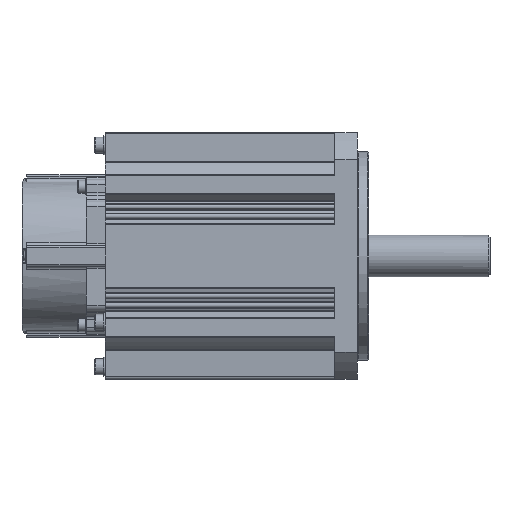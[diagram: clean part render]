
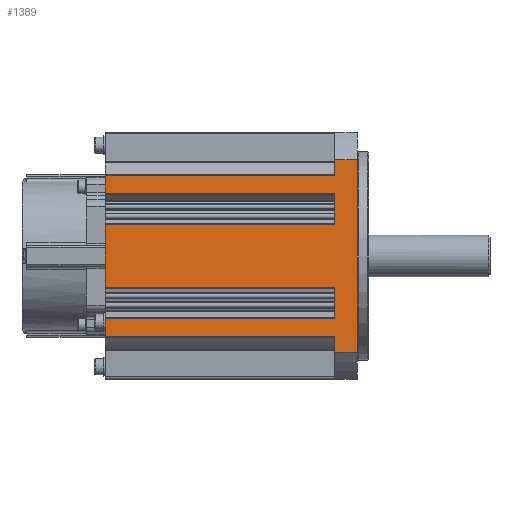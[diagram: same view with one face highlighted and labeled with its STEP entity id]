
A CAD part, front view. The second image highlights one B-rep face of the part: STEP entity #1389.
In plain terms, the highlighted planar face has unit normal (0, -1, 0).
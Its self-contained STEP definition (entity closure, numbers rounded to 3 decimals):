
#1389 = ADVANCED_FACE( '', ( #2987 ), #2988, .T. );
#2987 = FACE_OUTER_BOUND( '', #4814, .T. );
#2988 = PLANE( '', #4815 );
#4814 = EDGE_LOOP( '', ( #8785, #8786, #8787, #8788, #8789, #8790, #8791, #8792, #8793, #8794, #8795, #8796, #8797, #8798, #8799, #8800, #8801, #8802, #8803, #8804 ) );
#4815 = AXIS2_PLACEMENT_3D( '', #8805, #8806, #8807 );
#8785 = ORIENTED_EDGE( '', *, *, #11273, .F. );
#8786 = ORIENTED_EDGE( '', *, *, #10374, .T. );
#8787 = ORIENTED_EDGE( '', *, *, #11830, .F. );
#8788 = ORIENTED_EDGE( '', *, *, #11831, .F. );
#8789 = ORIENTED_EDGE( '', *, *, #10626, .F. );
#8790 = ORIENTED_EDGE( '', *, *, #11815, .T. );
#8791 = ORIENTED_EDGE( '', *, *, #11832, .T. );
#8792 = ORIENTED_EDGE( '', *, *, #11308, .F. );
#8793 = ORIENTED_EDGE( '', *, *, #10497, .F. );
#8794 = ORIENTED_EDGE( '', *, *, #10688, .F. );
#8795 = ORIENTED_EDGE( '', *, *, #10795, .F. );
#8796 = ORIENTED_EDGE( '', *, *, #10286, .T. );
#8797 = ORIENTED_EDGE( '', *, *, #11833, .T. );
#8798 = ORIENTED_EDGE( '', *, *, #11766, .F. );
#8799 = ORIENTED_EDGE( '', *, *, #10944, .F. );
#8800 = ORIENTED_EDGE( '', *, *, #11383, .F. );
#8801 = ORIENTED_EDGE( '', *, *, #11834, .F. );
#8802 = ORIENTED_EDGE( '', *, *, #11835, .T. );
#8803 = ORIENTED_EDGE( '', *, *, #11836, .T. );
#8804 = ORIENTED_EDGE( '', *, *, #11739, .F. );
#8805 = CARTESIAN_POINT( '', ( -133., -65., 50.806 ) );
#8806 = DIRECTION( '', ( 0., -1., 0. ) );
#8807 = DIRECTION( '', ( 0., 0., -1. ) );
#10286 = EDGE_CURVE( '', #12254, #12252, #12255, .T. );
#10374 = EDGE_CURVE( '', #12401, #12405, #12407, .T. );
#10497 = EDGE_CURVE( '', #12617, #12618, #12619, .T. );
#10626 = EDGE_CURVE( '', #12835, #12837, #12838, .T. );
#10688 = EDGE_CURVE( '', #12939, #12617, #12940, .T. );
#10795 = EDGE_CURVE( '', #12254, #12939, #13115, .T. );
#10944 = EDGE_CURVE( '', #13354, #13355, #13356, .T. );
#11273 = EDGE_CURVE( '', #12401, #13857, #13858, .T. );
#11308 = EDGE_CURVE( '', #12618, #13904, #13908, .T. );
#11383 = EDGE_CURVE( '', #13066, #13354, #14015, .T. );
#11739 = EDGE_CURVE( '', #13857, #14490, #14494, .T. );
#11766 = EDGE_CURVE( '', #13355, #14524, #14526, .T. );
#11815 = EDGE_CURVE( '', #12835, #14586, #14588, .T. );
#11830 = EDGE_CURVE( '', #14606, #12405, #14607, .T. );
#11831 = EDGE_CURVE( '', #12837, #14606, #14608, .T. );
#11832 = EDGE_CURVE( '', #14586, #13904, #14609, .T. );
#11833 = EDGE_CURVE( '', #12252, #14524, #14610, .T. );
#11834 = EDGE_CURVE( '', #14611, #13066, #14612, .T. );
#11835 = EDGE_CURVE( '', #14611, #14613, #14614, .T. );
#11836 = EDGE_CURVE( '', #14613, #14490, #14615, .T. );
#12252 = VERTEX_POINT( '', #15120 );
#12254 = VERTEX_POINT( '', #15122 );
#12255 = LINE( '', #15123, #15124 );
#12401 = VERTEX_POINT( '', #15306 );
#12405 = VERTEX_POINT( '', #15311 );
#12407 = LINE( '', #15313, #15314 );
#12617 = VERTEX_POINT( '', #15650 );
#12618 = VERTEX_POINT( '', #15651 );
#12619 = LINE( '', #15652, #15653 );
#12835 = VERTEX_POINT( '', #16010 );
#12837 = VERTEX_POINT( '', #16012 );
#12838 = LINE( '', #16013, #16014 );
#12939 = VERTEX_POINT( '', #16141 );
#12940 = LINE( '', #16142, #16143 );
#13066 = VERTEX_POINT( '', #16340 );
#13115 = LINE( '', #16404, #16405 );
#13354 = VERTEX_POINT( '', #16719 );
#13355 = VERTEX_POINT( '', #16720 );
#13356 = LINE( '', #16721, #16722 );
#13857 = VERTEX_POINT( '', #17408 );
#13858 = LINE( '', #17409, #17410 );
#13904 = VERTEX_POINT( '', #17470 );
#13908 = LINE( '', #17475, #17476 );
#14015 = LINE( '', #17627, #17628 );
#14490 = VERTEX_POINT( '', #18244 );
#14494 = LINE( '', #18249, #18250 );
#14524 = VERTEX_POINT( '', #18291 );
#14526 = LINE( '', #18293, #18294 );
#14586 = VERTEX_POINT( '', #18391 );
#14588 = LINE( '', #18393, #18394 );
#14606 = VERTEX_POINT( '', #18418 );
#14607 = LINE( '', #18419, #18420 );
#14608 = LINE( '', #18421, #18422 );
#14609 = LINE( '', #18423, #18424 );
#14610 = LINE( '', #18425, #18426 );
#14611 = VERTEX_POINT( '', #18427 );
#14612 = LINE( '', #18428, #18429 );
#14613 = VERTEX_POINT( '', #18430 );
#14614 = LINE( '', #18431, #18432 );
#14615 = LINE( '', #18433, #18434 );
#15120 = CARTESIAN_POINT( '', ( -133., -65., 16.5 ) );
#15122 = CARTESIAN_POINT( '', ( -12., -65., 16.5 ) );
#15123 = CARTESIAN_POINT( '', ( -12., -65., 16.5 ) );
#15124 = VECTOR( '', #18917, 1000. );
#15306 = CARTESIAN_POINT( '', ( -12., -65., -50.806 ) );
#15311 = CARTESIAN_POINT( '', ( 0., -65., -50.806 ) );
#15313 = CARTESIAN_POINT( '', ( -133., -65., -50.806 ) );
#15314 = VECTOR( '', #19054, 1000. );
#15650 = CARTESIAN_POINT( '', ( -12., -65., 26. ) );
#15651 = CARTESIAN_POINT( '', ( -12., -65., 33.089 ) );
#15652 = CARTESIAN_POINT( '', ( -12., -65., 50.806 ) );
#15653 = VECTOR( '', #19208, 1000. );
#16010 = CARTESIAN_POINT( '', ( -12., -65., 42.5 ) );
#16012 = CARTESIAN_POINT( '', ( -12., -65., 50.806 ) );
#16013 = CARTESIAN_POINT( '', ( -12., -65., 50.806 ) );
#16014 = VECTOR( '', #19385, 1000. );
#16141 = CARTESIAN_POINT( '', ( -12., -65., 21. ) );
#16142 = CARTESIAN_POINT( '', ( -12., -65., 50.806 ) );
#16143 = VECTOR( '', #19472, 1000. );
#16340 = CARTESIAN_POINT( '', ( -12., -65., -26. ) );
#16404 = CARTESIAN_POINT( '', ( -12., -65., 50.806 ) );
#16405 = VECTOR( '', #19610, 1000. );
#16719 = CARTESIAN_POINT( '', ( -12., -65., -21. ) );
#16720 = CARTESIAN_POINT( '', ( -12., -65., -16.5 ) );
#16721 = CARTESIAN_POINT( '', ( -12., -65., 50.806 ) );
#16722 = VECTOR( '', #19820, 1000. );
#17408 = CARTESIAN_POINT( '', ( -12., -65., -42.5 ) );
#17409 = CARTESIAN_POINT( '', ( -12., -65., 50.806 ) );
#17410 = VECTOR( '', #20241, 1000. );
#17470 = CARTESIAN_POINT( '', ( -133., -65., 33.089 ) );
#17475 = CARTESIAN_POINT( '', ( -12., -65., 33.089 ) );
#17476 = VECTOR( '', #20287, 1000. );
#17627 = CARTESIAN_POINT( '', ( -12., -65., 50.806 ) );
#17628 = VECTOR( '', #20379, 1000. );
#18244 = CARTESIAN_POINT( '', ( -133., -65., -42.5 ) );
#18249 = CARTESIAN_POINT( '', ( -12., -65., -42.5 ) );
#18250 = VECTOR( '', #20811, 1000. );
#18291 = CARTESIAN_POINT( '', ( -133., -65., -16.5 ) );
#18293 = CARTESIAN_POINT( '', ( -12., -65., -16.5 ) );
#18294 = VECTOR( '', #20838, 1000. );
#18391 = CARTESIAN_POINT( '', ( -133., -65., 42.5 ) );
#18393 = CARTESIAN_POINT( '', ( -12., -65., 42.5 ) );
#18394 = VECTOR( '', #20892, 1000. );
#18418 = CARTESIAN_POINT( '', ( 0., -65., 50.806 ) );
#18419 = CARTESIAN_POINT( '', ( 0., -65., 50.806 ) );
#18420 = VECTOR( '', #20905, 1000. );
#18421 = CARTESIAN_POINT( '', ( -133., -65., 50.806 ) );
#18422 = VECTOR( '', #20906, 1000. );
#18423 = CARTESIAN_POINT( '', ( -133., -65., 50.806 ) );
#18424 = VECTOR( '', #20907, 1000. );
#18425 = CARTESIAN_POINT( '', ( -133., -65., 50.806 ) );
#18426 = VECTOR( '', #20908, 1000. );
#18427 = CARTESIAN_POINT( '', ( -12., -65., -33.089 ) );
#18428 = CARTESIAN_POINT( '', ( -12., -65., 50.806 ) );
#18429 = VECTOR( '', #20909, 1000. );
#18430 = CARTESIAN_POINT( '', ( -133., -65., -33.089 ) );
#18431 = CARTESIAN_POINT( '', ( -12., -65., -33.089 ) );
#18432 = VECTOR( '', #20910, 1000. );
#18433 = CARTESIAN_POINT( '', ( -133., -65., 50.806 ) );
#18434 = VECTOR( '', #20911, 1000. );
#18917 = DIRECTION( '', ( -1., 0., 0. ) );
#19054 = DIRECTION( '', ( 1., 0., 0. ) );
#19208 = DIRECTION( '', ( 0., 0., 1. ) );
#19385 = DIRECTION( '', ( 0., 0., 1. ) );
#19472 = DIRECTION( '', ( 0., 0., 1. ) );
#19610 = DIRECTION( '', ( 0., 0., 1. ) );
#19820 = DIRECTION( '', ( 0., 0., 1. ) );
#20241 = DIRECTION( '', ( 0., 0., 1. ) );
#20287 = DIRECTION( '', ( -1., 0., 0. ) );
#20379 = DIRECTION( '', ( 0., 0., 1. ) );
#20811 = DIRECTION( '', ( -1., 0., 0. ) );
#20838 = DIRECTION( '', ( -1., 0., 0. ) );
#20892 = DIRECTION( '', ( -1., 0., 0. ) );
#20905 = DIRECTION( '', ( 0., 0., -1. ) );
#20906 = DIRECTION( '', ( 1., 0., 0. ) );
#20907 = DIRECTION( '', ( 0., 0., -1. ) );
#20908 = DIRECTION( '', ( 0., 0., -1. ) );
#20909 = DIRECTION( '', ( 0., 0., 1. ) );
#20910 = DIRECTION( '', ( -1., 0., 0. ) );
#20911 = DIRECTION( '', ( 0., 0., -1. ) );
